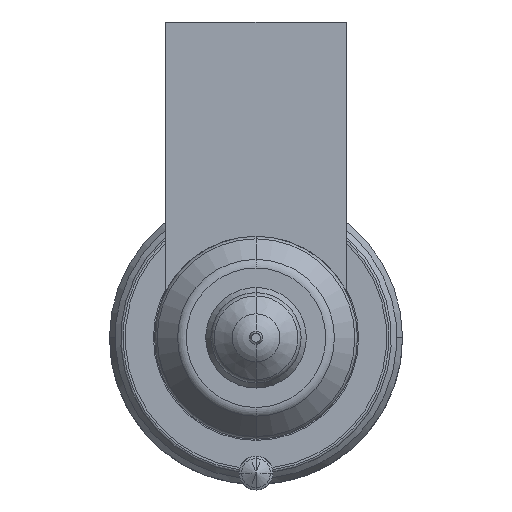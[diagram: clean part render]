
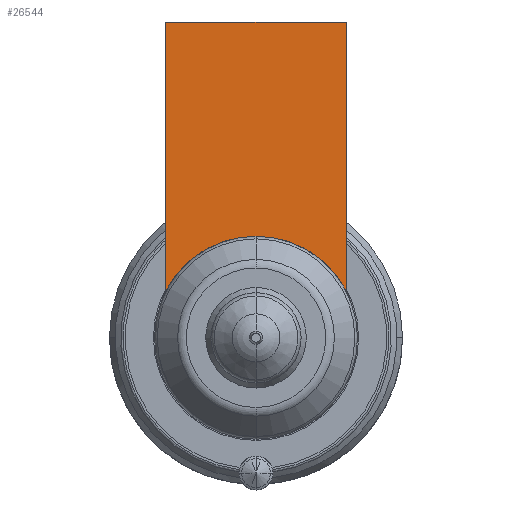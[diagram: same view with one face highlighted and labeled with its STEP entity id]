
A CAD part, front view. The second image highlights one B-rep face of the part: STEP entity #26544.
In plain terms, the highlighted planar face has unit normal (0, -1, 0).
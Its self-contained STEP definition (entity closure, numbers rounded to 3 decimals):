
#25661=DIRECTION('',(1.,0.,0.));
#25662=VECTOR('',#25661,16.);
#25663=CARTESIAN_POINT('',(-8.,-54.,28.));
#25664=LINE('',#25663,#25662);
#25669=CARTESIAN_POINT('',(0.,-54.,0.));
#25670=DIRECTION('',(0.,-1.,0.));
#25671=DIRECTION('',(0.889,0.,0.458));
#25672=AXIS2_PLACEMENT_3D('',#25669,#25670,#25671);
#25677=CARTESIAN_POINT('',(0.,-54.,0.));
#25678=DIRECTION('',(0.,-1.,0.));
#25679=DIRECTION('',(0.,0.,1.));
#25680=AXIS2_PLACEMENT_3D('',#25677,#25678,#25679);
#25706=DIRECTION('',(0.,0.,-1.));
#25707=VECTOR('',#25706,23.877);
#25708=CARTESIAN_POINT('',(-8.,-54.,28.));
#25709=LINE('',#25708,#25707);
#26388=DIRECTION('',(0.,0.,-1.));
#26389=VECTOR('',#26388,23.877);
#26390=CARTESIAN_POINT('',(8.,-54.,28.));
#26391=LINE('',#26390,#26389);
#26441=CARTESIAN_POINT('',(-8.,-54.,28.));
#26442=VERTEX_POINT('',#26441);
#26447=CARTESIAN_POINT('',(8.,-54.,28.));
#26448=VERTEX_POINT('',#26447);
#26451=CARTESIAN_POINT('',(-8.,-54.,4.123));
#26452=VERTEX_POINT('',#26451);
#26455=CARTESIAN_POINT('',(8.,-54.,4.123));
#26456=VERTEX_POINT('',#26455);
#26525=CARTESIAN_POINT('',(0.,-54.,9.));
#26526=VERTEX_POINT('',#26525);
#26527=CARTESIAN_POINT('',(0.,-54.,9.));
#26528=DIRECTION('',(0.,1.,0.));
#26529=DIRECTION('',(0.,0.,-1.));
#26530=AXIS2_PLACEMENT_3D('',#26527,#26528,#26529);
#26531=PLANE('',#26530);
#26533=ORIENTED_EDGE('',*,*,#26532,.F.);
#26535=ORIENTED_EDGE('',*,*,#26534,.T.);
#26537=ORIENTED_EDGE('',*,*,#26536,.T.);
#26539=ORIENTED_EDGE('',*,*,#26538,.T.);
#26541=ORIENTED_EDGE('',*,*,#26540,.T.);
#26542=EDGE_LOOP('',(#26533,#26535,#26537,#26539,#26541));
#26543=FACE_OUTER_BOUND('',#26542,.F.);
#26544=ADVANCED_FACE('',(#26543),#26531,.F.);
#25673=CIRCLE('',#25672,9.);
#25681=CIRCLE('',#25680,9.);
#26532=EDGE_CURVE('',#26442,#26452,#25709,.T.);
#26534=EDGE_CURVE('',#26442,#26448,#25664,.T.);
#26536=EDGE_CURVE('',#26448,#26456,#26391,.T.);
#26538=EDGE_CURVE('',#26456,#26526,#25673,.T.);
#26540=EDGE_CURVE('',#26526,#26452,#25681,.T.);
